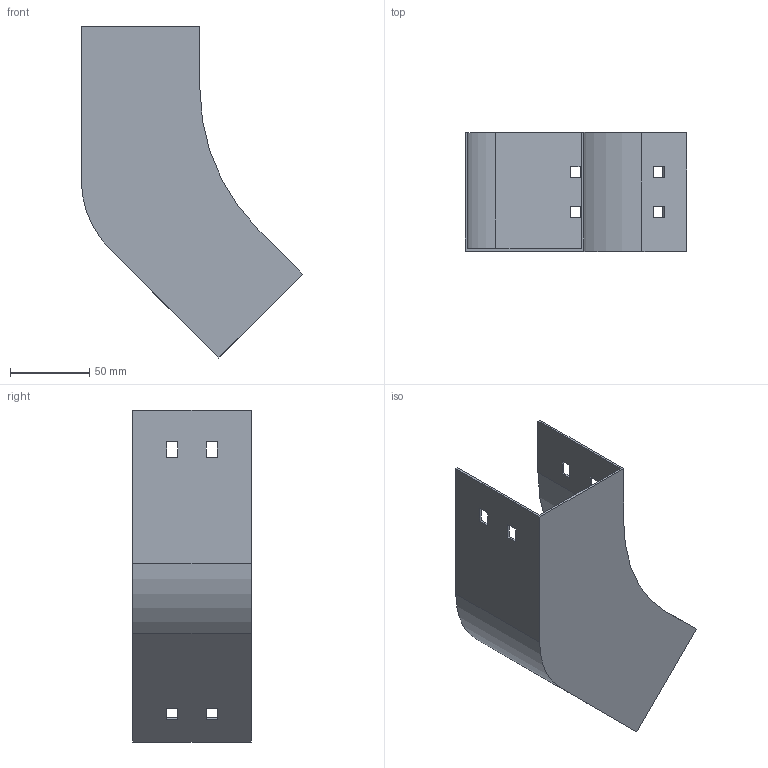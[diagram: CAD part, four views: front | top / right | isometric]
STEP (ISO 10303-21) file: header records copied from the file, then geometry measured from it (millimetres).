
FILE_DESCRIPTION (( 'STEP AP214' ), '1' );
FILE_NAME ('P4_077.step', '2025-07-16T09:18:38', ( '' ), ( '' ), 'SwSTEP 2.0', 'SolidWorks 2023', '' );
FILE_SCHEMA (( 'AUTOMOTIVE_DESIGN' ));
Length unit declared in the file: millimetre
Products named in the file (1): P4_077
Bounding box: 139.9 x 75 x 209.71 mm (x, y, z)
Volume: 70117 mm3; surface area: 95195 mm2
Topology: 1 solids, 1 shells, 50 faces, 144 edges, 96 vertices
Faces by surface type: plane 46, cylinder 4
Entity records: 1671 total; most frequent: CARTESIAN_POINT 291, ORIENTED_EDGE 288, DIRECTION 254, EDGE_CURVE 144, VECTOR 136, LINE 136, VERTEX_POINT 96, EDGE_LOOP 66
